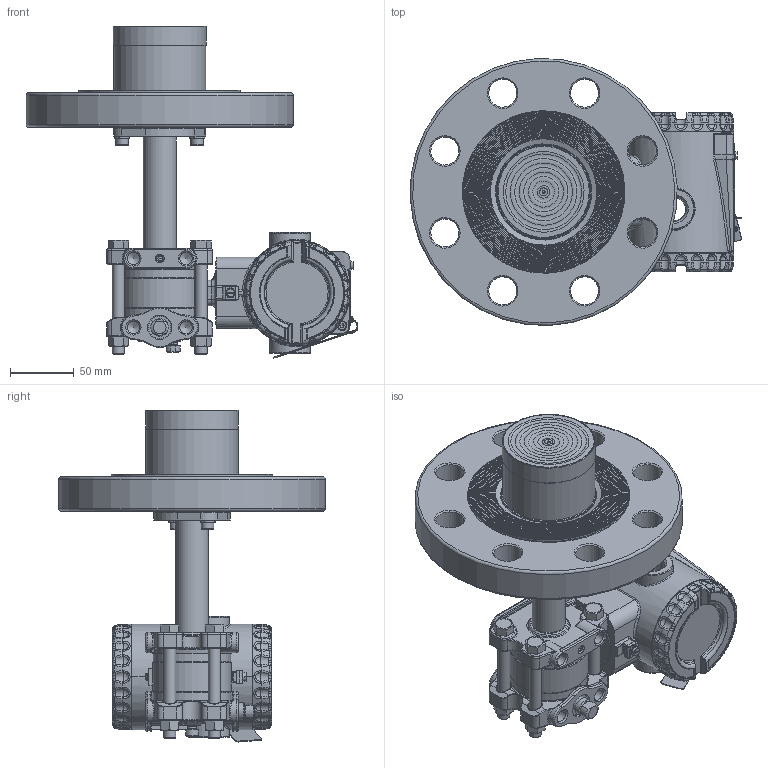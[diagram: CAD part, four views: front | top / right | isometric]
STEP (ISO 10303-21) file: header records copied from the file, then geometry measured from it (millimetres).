
FILE_DESCRIPTION(/* description */ (''),/* implementation_level */ '2;1');
FILE_NAME(/* name */ 'F:\Area\Desenvolvimento_2\Projects\Sensor\projetos\LD400-3d\dimensionais 3D clientes\LD400L\LD400L 3-300 RF ext 50 ref 1-4NPT purga acima.stp',/* time_stamp */ '2023-02-23T16:12:09-03:00',/* author */ ('inventor02'),/* organization */ (''),/* preprocessor_version */ 'ST-DEVELOPER v17',/* originating_system */ 'Autodesk Inventor 2019',/* authorisation */ '');
FILE_SCHEMA (('CONFIG_CONTROL_DESIGN'));
Products named in the file (41): LD30XL 3-300 RF ext 50 ref 1-4NPT purga acima; 204-0301-L-3 300 RF ext 50 purga acima; nivel fx3 com baixa diferencial 1-4NPT purga acima; involucro fx0-3 apos a usinagem final; flange diferencial std purga; 101-C-7484-01 flange selo nivel VR; 201-A-0504-tubo união teste 1; bujao 1-4NPT; Sangria; Porca 3-8 x 16 UNC; Paraf. 3-8 x 16 UNC; adaptação tubo x flanges 1-1-2 a 4pol; 101-B-0161-anel cortado do tubo - teste1; 101-B-0162-flange fixação tubo; ANSI B18.3.1M - M6x1 x 16; DIN 127 - A 6; flange 3 300 ext 50; 101-C-0120-13; 096-B-0199-14; 101-B-7701-02 ext 3-50; Carcaça 400 com tampas e plaqueta sem letras; 101-D-0845-05 carcaça LD400 sem letras; 101-B-3614-03-tampa 400 sem letras; Tampa visor 400 montada sem letras; 101-B-3612-05 tampa visor 400 sem letras; 101-A-6107; oring 2034; 00034775-0; WHW_250; DIN 915 - M6 x 10; Chapa aterramento externo; 201-A-1771-02 inserto terra recartilhado; AS 1969 - ST4,2; ISO 1207 - M4 x 8; ANSI B18.3.1M - M4x0,7 x 8; Subconjunto plaqueta 400; plaqueta 400 em branco; Parafuso da Plaqueta; Rebite da Plaqueta; 096-A-0169-03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
Assembly tree (50 placements, depth 4):
  LD30XL 3-300 RF ext 50 ref 1-4NPT purga acima
    204-0301-L-3 300 RF ext 50 purga acima
      nivel fx3 com baixa diferencial 1-4NPT purga acima
        involucro fx0-3 apos a usinagem final
        flange diferencial std purga
        101-C-7484-01 flange selo nivel VR
        201-A-0504-tubo união teste 1
        DIN 915 - M6 x 10
        bujao 1-4NPT
        Sangria
        Porca 3-8 x 16 UNC  x4
        Paraf. 3-8 x 16 UNC  x4
      adaptação tubo x flanges 1-1-2 a 4pol
        101-B-0161-anel cortado do tubo - teste1
        101-B-0162-flange fixação tubo
        ANSI B18.3.1M - M6x1 x 16  x2
        DIN 127 - A 6  x2
      flange 3 300 ext 50
        101-C-0120-13
        096-B-0199-14
        101-B-7701-02 ext 3-50
    Carcaça 400 com tampas e plaqueta sem letras
      101-D-0845-05 carcaça LD400 sem letras
      101-B-3614-03-tampa 400 sem letras
      Tampa visor 400 montada sem letras
        101-B-3612-05 tampa visor 400 sem letras
        101-A-6107
        oring 2034
        00034775-0
        WHW_250
      DIN 915 - M6 x 10
      Chapa aterramento externo
      201-A-1771-02 inserto terra recartilhado
      AS 1969 - ST4,2
      ISO 1207 - M4 x 8
      ANSI B18.3.1M - M4x0,7 x 8  x2
      Subconjunto plaqueta 400
        plaqueta 400 em branco
        Parafuso da Plaqueta
        Rebite da Plaqueta
        096-A-0169-03
        101-A-0502-01
Bounding box: 260.64 x 209.8 x 260.92 mm (x, y, z)
Volume: 1581709.3 mm3; surface area: 385988.7 mm2
Topology: 43 solids, 43 shells, 2809 faces, 6797 edges, 4087 vertices
Faces by surface type: plane 739, cylinder 668, bspline 605, torus 491, cone 230, sphere 76
Full cylindrical faces by diameter (mm): 2 x4, 2.1 x1, 2.2 x1, 2.459 x3, 2.5 x1, 2.7 x1, 2.8 x1, 3 x4, 3.242 x3, 3.5 x1, 3.571 x1, 4 x5, 4.3 x2, 4.4 x1, 4.917 x4, 5 x1, 5.5 x3, 6 x6, 6.1 x2, 6.2 x1, 6.647 x1, 7 x5, 7.6 x2, 7.798 x4, 8 x1, 9.525 x4, 9.728 x6, 10 x2, 10.5 x8, 10.719 x2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
Entity records: 99875 total; most frequent: CARTESIAN_POINT 37281, DIRECTION 12942, ORIENTED_EDGE 12834, EDGE_CURVE 6417, AXIS2_PLACEMENT_3D 5554, VERTEX_POINT 3893, CIRCLE 3233, EDGE_LOOP 2870
